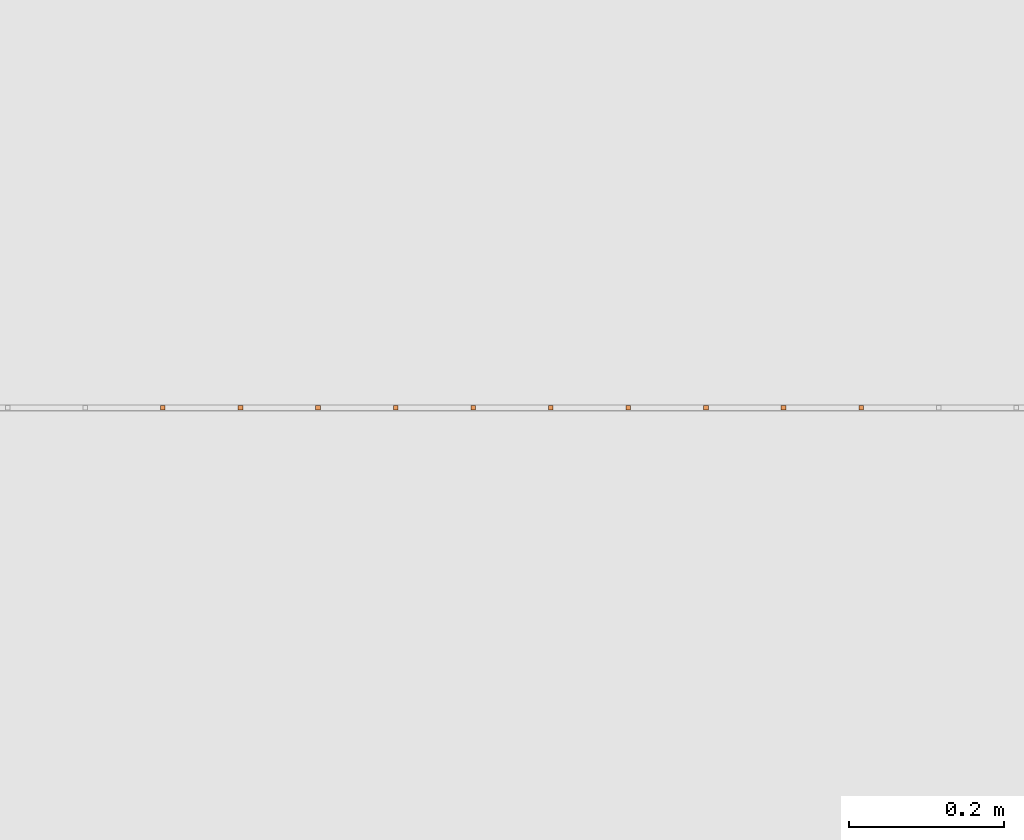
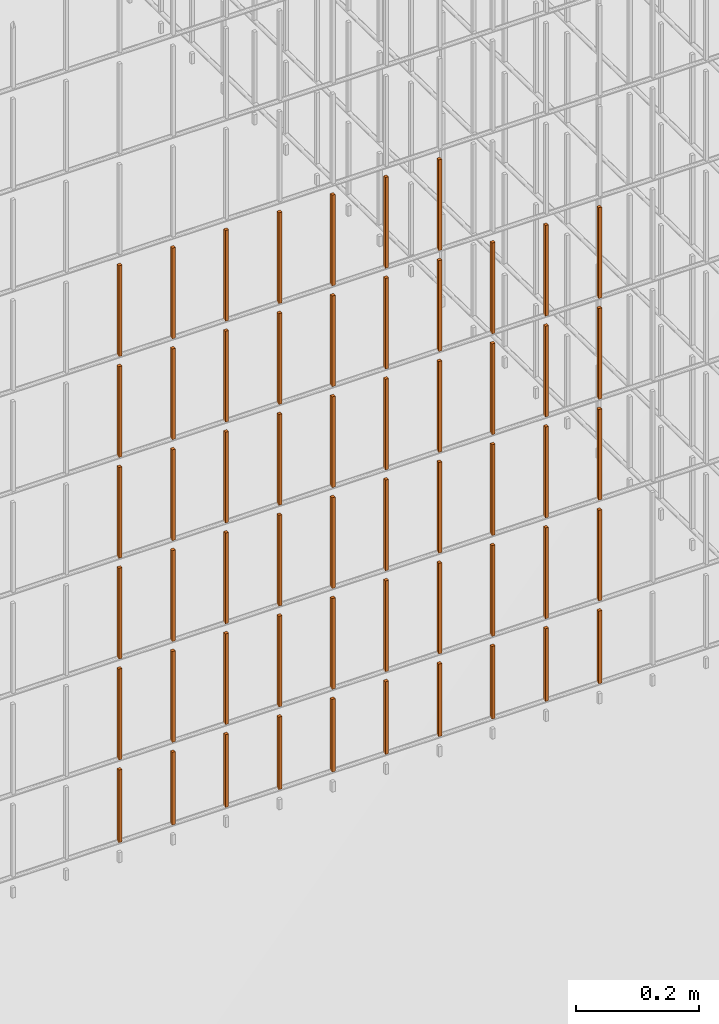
# One storey, part 252 of 1809: 57 proxies, 1 element without a shape of its own.
"""IFC2X3 building model written with IfcOpenShell, lengths in millimetres."""

from ifc_helpers import new_model, entity, si_unit, converted_unit, derived_unit, money_unit, direction, frame, origin_with_axes, place, context, subcontext, project, spatial, faceted_brep, source, transform, mapped, material, type_object, element, aggregate, save


model = new_model("IFC2X3")

# Units and contexts
model_context = context("Model", 3, precision=0.01, world=origin_with_axes(), true_north=direction((0.0, 1.0)))
body_context = subcontext(model_context, "Body", "Model", "MODEL_VIEW")
ifc_project = project(units=[si_unit("LENGTHUNIT", "METRE", prefix="MILLI"), si_unit("AREAUNIT", "SQUARE_METRE"), si_unit("VOLUMEUNIT", "CUBIC_METRE"), converted_unit("PLANEANGLEUNIT", "DEGREE", entity("IfcPlaneAngleMeasure", 0.0174532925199), si_unit("PLANEANGLEUNIT", "RADIAN"), dimensions=[0, 0, 0, 0, 0, 0, 0]), si_unit("SOLIDANGLEUNIT", "STERADIAN"), money_unit("EUR"), converted_unit("TIMEUNIT", "Year", entity("IfcTimeMeasure", 31556926.0), si_unit("TIMEUNIT", "SECOND"), dimensions=[0, 0, 1, 0, 0, 0, 0]), si_unit("MASSUNIT", "GRAM", prefix="KILO"), si_unit("THERMODYNAMICTEMPERATUREUNIT", "DEGREE_CELSIUS"), si_unit("LUMINOUSINTENSITYUNIT", "LUMEN"), si_unit("ENERGYUNIT", "JOULE", prefix="MEGA"), derived_unit("THERMALCONDUCTANCEUNIT", [(si_unit("POWERUNIT", "WATT"), 1), (si_unit("LENGTHUNIT", "METRE"), -1), (si_unit("THERMODYNAMICTEMPERATUREUNIT", "KELVIN"), -1)]), derived_unit("SPECIFICHEATCAPACITYUNIT", [(si_unit("ENERGYUNIT", "JOULE"), 1), (si_unit("MASSUNIT", "GRAM", prefix="KILO"), -1), (si_unit("THERMODYNAMICTEMPERATUREUNIT", "KELVIN"), -1)]), derived_unit("MASSDENSITYUNIT", [(si_unit("MASSUNIT", "GRAM", prefix="KILO"), 1), (si_unit("VOLUMEUNIT", "CUBIC_METRE"), -1)])], contexts=[model_context])

# Site, building, storey
site_placement = place(None, origin_with_axes())
site = spatial("IfcSite", under=ifc_project, at=site_placement, Name="Politse- ja Piirivalveameti ning Päästeameti ühishoone", CompositionType="ELEMENT")
building_placement = place(site_placement, origin_with_axes())
building = spatial("IfcBuilding", under=site, at=building_placement, Name="Politse- ja Piirivalveameti ning Päästeameti ühishoone", CompositionType="ELEMENT")
storey_placement = place(building_placement, origin_with_axes())
storey = spatial("IfcBuildingStorey", under=building, at=storey_placement, Name="Esimene korrus", CompositionType="ELEMENT", Elevation=0.0)

# Proxies
building_element_proxy_type_1 = type_object("IfcBuildingElementProxyType", Name="Railing Type", PredefinedType="NOTDEFINED")
proxy_1_placement = place(storey_placement, frame((-16775.8601056, 25156.7555964, 0.0), z_axis=(0.0, 0.0, 1.0), x_axis=(1.0, 0.0, 0.0)))
proxy_1 = element("IfcBuildingElementProxy", 1, at=proxy_1_placement, inside=storey, type_object=building_element_proxy_type_1, Name="KENNELI PIIRE")
ifc_material = material(Name="Teras - Konstruktsioon")
building_element_proxy_type_2 = type_object("IfcBuildingElementProxyType", Name="IfcBuildingElementProxy", PredefinedType="NOTDEFINED")
shared_shape_1 = source(origin_with_axes(), body_context, "Body", "Brep", [
    faceted_brep([(3.0, 3.0, 0.0), (-3.0, 3.0, 0.0), (-3.0, 3.0, 180.000012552), (3.0, 3.0, 180.000012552), (3.0, -3.0, 0.0), (-3.0, -3.0, 0.0), (-3.0, -3.0, 180.000012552), (3.0, -3.0, 180.000012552)], [[[0, 1, 2, 3]], [[0, 4, 5, 1]], [[1, 5, 6, 2]], [[3, 2, 6, 7]], [[4, 0, 3, 7]], [[5, 4, 7, 6]]]),
])
proxy_2_placement = place(proxy_1_placement, frame((-1082.26655065, -16068.8402798, 403.999987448), z_axis=(0.0, 0.0, 1.0), x_axis=(1.0, 0.0, 0.0)))
proxy_2 = element("IfcBuildingElementProxy", 2, at=proxy_2_placement, type_object=building_element_proxy_type_2, material=ifc_material, Name="BALUSTER - 001", context=body_context, shape_type="MappedRepresentation", body=[
    mapped(shared_shape_1, transform((0.0, 0.0, 0.0), x_axis=(0.0, -1.0, 0.0), y_axis=(1.0, 0.0, 0.0), z_axis=(0.0, 0.0, 1.0))),
])
proxy_3_placement = place(proxy_1_placement, frame((-982.266550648, -16068.8402798, 403.999987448), z_axis=(0.0, 0.0, 1.0), x_axis=(1.0, 0.0, 0.0)))
proxy_3 = element("IfcBuildingElementProxy", 3, at=proxy_3_placement, type_object=building_element_proxy_type_2, material=ifc_material, Name="BALUSTER - 001", context=body_context, shape_type="MappedRepresentation", body=[
    mapped(shared_shape_1, transform((0.0, 0.0, 0.0), x_axis=(0.0, -1.0, 0.0), y_axis=(1.0, 0.0, 0.0), z_axis=(0.0, 0.0, 1.0))),
])
proxy_4_placement = place(proxy_1_placement, frame((-882.266550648, -16068.8402798, 403.999987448), z_axis=(0.0, 0.0, 1.0), x_axis=(1.0, 0.0, 0.0)))
proxy_4 = element("IfcBuildingElementProxy", 4, at=proxy_4_placement, type_object=building_element_proxy_type_2, material=ifc_material, Name="BALUSTER - 001", context=body_context, shape_type="MappedRepresentation", body=[
    mapped(shared_shape_1, transform((0.0, 0.0, 0.0), x_axis=(0.0, -1.0, 0.0), y_axis=(1.0, 0.0, 0.0), z_axis=(0.0, 0.0, 1.0))),
])
proxy_5_placement = place(proxy_1_placement, frame((-782.266550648, -16068.8402798, 403.999987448), z_axis=(0.0, 0.0, 1.0), x_axis=(1.0, 0.0, 0.0)))
proxy_5 = element("IfcBuildingElementProxy", 5, at=proxy_5_placement, type_object=building_element_proxy_type_2, material=ifc_material, Name="BALUSTER - 001", context=body_context, shape_type="MappedRepresentation", body=[
    mapped(shared_shape_1, transform((0.0, 0.0, 0.0), x_axis=(0.0, -1.0, 0.0), y_axis=(1.0, 0.0, 0.0), z_axis=(0.0, 0.0, 1.0))),
])
proxy_6_placement = place(proxy_1_placement, frame((-682.266550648, -16068.8402798, 403.999987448), z_axis=(0.0, 0.0, 1.0), x_axis=(1.0, 0.0, 0.0)))
proxy_6 = element("IfcBuildingElementProxy", 6, at=proxy_6_placement, type_object=building_element_proxy_type_2, material=ifc_material, Name="BALUSTER - 001", context=body_context, shape_type="MappedRepresentation", body=[
    mapped(shared_shape_1, transform((0.0, 0.0, 0.0), x_axis=(0.0, -1.0, 0.0), y_axis=(1.0, 0.0, 0.0), z_axis=(0.0, 0.0, 1.0))),
])
proxy_7_placement = place(proxy_1_placement, frame((-582.266550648, -16068.8402798, 403.999987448), z_axis=(0.0, 0.0, 1.0), x_axis=(1.0, 0.0, 0.0)))
proxy_7 = element("IfcBuildingElementProxy", 7, at=proxy_7_placement, type_object=building_element_proxy_type_2, material=ifc_material, Name="BALUSTER - 001", context=body_context, shape_type="MappedRepresentation", body=[
    mapped(shared_shape_1, transform((0.0, 0.0, 0.0), x_axis=(0.0, -1.0, 0.0), y_axis=(1.0, 0.0, 0.0), z_axis=(0.0, 0.0, 1.0))),
])
proxy_8_placement = place(proxy_1_placement, frame((-482.266550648, -16068.8402798, 403.999987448), z_axis=(0.0, 0.0, 1.0), x_axis=(1.0, 0.0, 0.0)))
proxy_8 = element("IfcBuildingElementProxy", 8, at=proxy_8_placement, type_object=building_element_proxy_type_2, material=ifc_material, Name="BALUSTER - 001", context=body_context, shape_type="MappedRepresentation", body=[
    mapped(shared_shape_1, transform((0.0, 0.0, 0.0), x_axis=(0.0, -1.0, 0.0), y_axis=(1.0, 0.0, 0.0), z_axis=(0.0, 0.0, 1.0))),
])
proxy_9_placement = place(proxy_1_placement, frame((-382.266550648, -16068.8402798, 403.999987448), z_axis=(0.0, 0.0, 1.0), x_axis=(1.0, 0.0, 0.0)))
proxy_9 = element("IfcBuildingElementProxy", 9, at=proxy_9_placement, type_object=building_element_proxy_type_2, material=ifc_material, Name="BALUSTER - 001", context=body_context, shape_type="MappedRepresentation", body=[
    mapped(shared_shape_1, transform((0.0, 0.0, 0.0), x_axis=(0.0, -1.0, 0.0), y_axis=(1.0, 0.0, 0.0), z_axis=(0.0, 0.0, 1.0))),
])
proxy_10_placement = place(proxy_1_placement, frame((-282.266550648, -16068.8402798, 403.999987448), z_axis=(0.0, 0.0, 1.0), x_axis=(1.0, 0.0, 0.0)))
proxy_10 = element("IfcBuildingElementProxy", 10, at=proxy_10_placement, type_object=building_element_proxy_type_2, material=ifc_material, Name="BALUSTER - 001", context=body_context, shape_type="MappedRepresentation", body=[
    mapped(shared_shape_1, transform((0.0, 0.0, 0.0), x_axis=(0.0, -1.0, 0.0), y_axis=(1.0, 0.0, 0.0), z_axis=(0.0, 0.0, 1.0))),
])
proxy_11_placement = place(proxy_1_placement, frame((-182.266550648, -16068.8402798, 403.999987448), z_axis=(0.0, 0.0, 1.0), x_axis=(1.0, 0.0, 0.0)))
proxy_11 = element("IfcBuildingElementProxy", 11, at=proxy_11_placement, type_object=building_element_proxy_type_2, material=ifc_material, Name="BALUSTER - 001", context=body_context, shape_type="MappedRepresentation", body=[
    mapped(shared_shape_1, transform((0.0, 0.0, 0.0), x_axis=(0.0, -1.0, 0.0), y_axis=(1.0, 0.0, 0.0), z_axis=(0.0, 0.0, 1.0))),
])
proxy_12_placement = place(proxy_1_placement, frame((-1082.26655065, -16068.8402798, 803.999987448), z_axis=(0.0, 0.0, 1.0), x_axis=(1.0, 0.0, 0.0)))
proxy_12 = element("IfcBuildingElementProxy", 12, at=proxy_12_placement, type_object=building_element_proxy_type_2, material=ifc_material, Name="BALUSTER - 001", context=body_context, shape_type="MappedRepresentation", body=[
    mapped(shared_shape_1, transform((0.0, 0.0, 0.0), x_axis=(0.0, -1.0, 0.0), y_axis=(1.0, 0.0, 0.0), z_axis=(0.0, 0.0, 1.0))),
])
proxy_13_placement = place(proxy_1_placement, frame((-982.266550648, -16068.8402798, 803.999987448), z_axis=(0.0, 0.0, 1.0), x_axis=(1.0, 0.0, 0.0)))
proxy_13 = element("IfcBuildingElementProxy", 13, at=proxy_13_placement, type_object=building_element_proxy_type_2, material=ifc_material, Name="BALUSTER - 001", context=body_context, shape_type="MappedRepresentation", body=[
    mapped(shared_shape_1, transform((0.0, 0.0, 0.0), x_axis=(0.0, -1.0, 0.0), y_axis=(1.0, 0.0, 0.0), z_axis=(0.0, 0.0, 1.0))),
])
proxy_14_placement = place(proxy_1_placement, frame((-882.266550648, -16068.8402798, 803.999987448), z_axis=(0.0, 0.0, 1.0), x_axis=(1.0, 0.0, 0.0)))
proxy_14 = element("IfcBuildingElementProxy", 14, at=proxy_14_placement, type_object=building_element_proxy_type_2, material=ifc_material, Name="BALUSTER - 001", context=body_context, shape_type="MappedRepresentation", body=[
    mapped(shared_shape_1, transform((0.0, 0.0, 0.0), x_axis=(0.0, -1.0, 0.0), y_axis=(1.0, 0.0, 0.0), z_axis=(0.0, 0.0, 1.0))),
])
proxy_15_placement = place(proxy_1_placement, frame((-782.266550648, -16068.8402798, 803.999987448), z_axis=(0.0, 0.0, 1.0), x_axis=(1.0, 0.0, 0.0)))
proxy_15 = element("IfcBuildingElementProxy", 15, at=proxy_15_placement, type_object=building_element_proxy_type_2, material=ifc_material, Name="BALUSTER - 001", context=body_context, shape_type="MappedRepresentation", body=[
    mapped(shared_shape_1, transform((0.0, 0.0, 0.0), x_axis=(0.0, -1.0, 0.0), y_axis=(1.0, 0.0, 0.0), z_axis=(0.0, 0.0, 1.0))),
])
proxy_16_placement = place(proxy_1_placement, frame((-682.266550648, -16068.8402798, 803.999987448), z_axis=(0.0, 0.0, 1.0), x_axis=(1.0, 0.0, 0.0)))
proxy_16 = element("IfcBuildingElementProxy", 16, at=proxy_16_placement, type_object=building_element_proxy_type_2, material=ifc_material, Name="BALUSTER - 001", context=body_context, shape_type="MappedRepresentation", body=[
    mapped(shared_shape_1, transform((0.0, 0.0, 0.0), x_axis=(0.0, -1.0, 0.0), y_axis=(1.0, 0.0, 0.0), z_axis=(0.0, 0.0, 1.0))),
])
proxy_17_placement = place(proxy_1_placement, frame((-582.266550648, -16068.8402798, 803.999987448), z_axis=(0.0, 0.0, 1.0), x_axis=(1.0, 0.0, 0.0)))
proxy_17 = element("IfcBuildingElementProxy", 17, at=proxy_17_placement, type_object=building_element_proxy_type_2, material=ifc_material, Name="BALUSTER - 001", context=body_context, shape_type="MappedRepresentation", body=[
    mapped(shared_shape_1, transform((0.0, 0.0, 0.0), x_axis=(0.0, -1.0, 0.0), y_axis=(1.0, 0.0, 0.0), z_axis=(0.0, 0.0, 1.0))),
])
proxy_18_placement = place(proxy_1_placement, frame((-482.266550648, -16068.8402798, 803.999987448), z_axis=(0.0, 0.0, 1.0), x_axis=(1.0, 0.0, 0.0)))
proxy_18 = element("IfcBuildingElementProxy", 18, at=proxy_18_placement, type_object=building_element_proxy_type_2, material=ifc_material, Name="BALUSTER - 001", context=body_context, shape_type="MappedRepresentation", body=[
    mapped(shared_shape_1, transform((0.0, 0.0, 0.0), x_axis=(0.0, -1.0, 0.0), y_axis=(1.0, 0.0, 0.0), z_axis=(0.0, 0.0, 1.0))),
])
proxy_19_placement = place(proxy_1_placement, frame((-382.266550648, -16068.8402798, 803.999987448), z_axis=(0.0, 0.0, 1.0), x_axis=(1.0, 0.0, 0.0)))
proxy_19 = element("IfcBuildingElementProxy", 19, at=proxy_19_placement, type_object=building_element_proxy_type_2, material=ifc_material, Name="BALUSTER - 001", context=body_context, shape_type="MappedRepresentation", body=[
    mapped(shared_shape_1, transform((0.0, 0.0, 0.0), x_axis=(0.0, -1.0, 0.0), y_axis=(1.0, 0.0, 0.0), z_axis=(0.0, 0.0, 1.0))),
])
proxy_20_placement = place(proxy_1_placement, frame((-282.266550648, -16068.8402798, 803.999987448), z_axis=(0.0, 0.0, 1.0), x_axis=(1.0, 0.0, 0.0)))
proxy_20 = element("IfcBuildingElementProxy", 20, at=proxy_20_placement, type_object=building_element_proxy_type_2, material=ifc_material, Name="BALUSTER - 001", context=body_context, shape_type="MappedRepresentation", body=[
    mapped(shared_shape_1, transform((0.0, 0.0, 0.0), x_axis=(0.0, -1.0, 0.0), y_axis=(1.0, 0.0, 0.0), z_axis=(0.0, 0.0, 1.0))),
])
proxy_21_placement = place(proxy_1_placement, frame((-182.266550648, -16068.8402798, 803.999987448), z_axis=(0.0, 0.0, 1.0), x_axis=(1.0, 0.0, 0.0)))
proxy_21 = element("IfcBuildingElementProxy", 21, at=proxy_21_placement, type_object=building_element_proxy_type_2, material=ifc_material, Name="BALUSTER - 001", context=body_context, shape_type="MappedRepresentation", body=[
    mapped(shared_shape_1, transform((0.0, 0.0, 0.0), x_axis=(0.0, -1.0, 0.0), y_axis=(1.0, 0.0, 0.0), z_axis=(0.0, 0.0, 1.0))),
])
proxy_22_placement = place(proxy_1_placement, frame((-1082.26655065, -16068.8402798, 1003.99998745), z_axis=(0.0, 0.0, 1.0), x_axis=(1.0, 0.0, 0.0)))
proxy_22 = element("IfcBuildingElementProxy", 22, at=proxy_22_placement, type_object=building_element_proxy_type_2, material=ifc_material, Name="BALUSTER - 001", context=body_context, shape_type="MappedRepresentation", body=[
    mapped(shared_shape_1, transform((0.0, 0.0, 0.0), x_axis=(0.0, -1.0, 0.0), y_axis=(1.0, 0.0, 0.0), z_axis=(0.0, 0.0, 1.0))),
])
proxy_23_placement = place(proxy_1_placement, frame((-982.266550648, -16068.8402798, 1003.99998745), z_axis=(0.0, 0.0, 1.0), x_axis=(1.0, 0.0, 0.0)))
proxy_23 = element("IfcBuildingElementProxy", 23, at=proxy_23_placement, type_object=building_element_proxy_type_2, material=ifc_material, Name="BALUSTER - 001", context=body_context, shape_type="MappedRepresentation", body=[
    mapped(shared_shape_1, transform((0.0, 0.0, 0.0), x_axis=(0.0, -1.0, 0.0), y_axis=(1.0, 0.0, 0.0), z_axis=(0.0, 0.0, 1.0))),
])
proxy_24_placement = place(proxy_1_placement, frame((-882.266550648, -16068.8402798, 1003.99998745), z_axis=(0.0, 0.0, 1.0), x_axis=(1.0, 0.0, 0.0)))
proxy_24 = element("IfcBuildingElementProxy", 24, at=proxy_24_placement, type_object=building_element_proxy_type_2, material=ifc_material, Name="BALUSTER - 001", context=body_context, shape_type="MappedRepresentation", body=[
    mapped(shared_shape_1, transform((0.0, 0.0, 0.0), x_axis=(0.0, -1.0, 0.0), y_axis=(1.0, 0.0, 0.0), z_axis=(0.0, 0.0, 1.0))),
])
proxy_25_placement = place(proxy_1_placement, frame((-782.266550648, -16068.8402798, 1003.99998745), z_axis=(0.0, 0.0, 1.0), x_axis=(1.0, 0.0, 0.0)))
proxy_25 = element("IfcBuildingElementProxy", 25, at=proxy_25_placement, type_object=building_element_proxy_type_2, material=ifc_material, Name="BALUSTER - 001", context=body_context, shape_type="MappedRepresentation", body=[
    mapped(shared_shape_1, transform((0.0, 0.0, 0.0), x_axis=(0.0, -1.0, 0.0), y_axis=(1.0, 0.0, 0.0), z_axis=(0.0, 0.0, 1.0))),
])
proxy_26_placement = place(proxy_1_placement, frame((-682.266550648, -16068.8402798, 1003.99998745), z_axis=(0.0, 0.0, 1.0), x_axis=(1.0, 0.0, 0.0)))
proxy_26 = element("IfcBuildingElementProxy", 26, at=proxy_26_placement, type_object=building_element_proxy_type_2, material=ifc_material, Name="BALUSTER - 001", context=body_context, shape_type="MappedRepresentation", body=[
    mapped(shared_shape_1, transform((0.0, 0.0, 0.0), x_axis=(0.0, -1.0, 0.0), y_axis=(1.0, 0.0, 0.0), z_axis=(0.0, 0.0, 1.0))),
])
proxy_27_placement = place(proxy_1_placement, frame((-582.266550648, -16068.8402798, 1003.99998745), z_axis=(0.0, 0.0, 1.0), x_axis=(1.0, 0.0, 0.0)))
proxy_27 = element("IfcBuildingElementProxy", 27, at=proxy_27_placement, type_object=building_element_proxy_type_2, material=ifc_material, Name="BALUSTER - 001", context=body_context, shape_type="MappedRepresentation", body=[
    mapped(shared_shape_1, transform((0.0, 0.0, 0.0), x_axis=(0.0, -1.0, 0.0), y_axis=(1.0, 0.0, 0.0), z_axis=(0.0, 0.0, 1.0))),
])
proxy_28_placement = place(proxy_1_placement, frame((-482.266550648, -16068.8402798, 1003.99998745), z_axis=(0.0, 0.0, 1.0), x_axis=(1.0, 0.0, 0.0)))
proxy_28 = element("IfcBuildingElementProxy", 28, at=proxy_28_placement, type_object=building_element_proxy_type_2, material=ifc_material, Name="BALUSTER - 001", context=body_context, shape_type="MappedRepresentation", body=[
    mapped(shared_shape_1, transform((0.0, 0.0, 0.0), x_axis=(0.0, -1.0, 0.0), y_axis=(1.0, 0.0, 0.0), z_axis=(0.0, 0.0, 1.0))),
])
shared_shape_2 = source(origin_with_axes(), body_context, "Body", "Brep", [
    faceted_brep([(3.0, 3.0, 0.0), (-3.0, 3.0, 0.0), (-3.0, 3.0, 144.000012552), (3.0, 3.0, 144.000012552), (3.0, -3.0, 0.0), (-3.0, -3.0, 0.0), (-3.0, -3.0, 144.000012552), (3.0, -3.0, 144.000012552)], [[[0, 1, 2, 3]], [[0, 4, 5, 1]], [[1, 5, 6, 2]], [[3, 2, 6, 7]], [[4, 0, 3, 7]], [[5, 4, 7, 6]]]),
])
proxy_29_placement = place(proxy_1_placement, frame((-1082.26655065, -16068.8402798, 39.9999874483), z_axis=(0.0, 0.0, 1.0), x_axis=(1.0, 0.0, 0.0)))
proxy_29 = element("IfcBuildingElementProxy", 29, at=proxy_29_placement, type_object=building_element_proxy_type_2, material=ifc_material, Name="BALUSTER - 001", context=body_context, shape_type="MappedRepresentation", body=[
    mapped(shared_shape_2, transform((0.0, 0.0, 0.0), x_axis=(0.0, -1.0, 0.0), y_axis=(1.0, 0.0, 0.0), z_axis=(0.0, 0.0, 1.0))),
])
proxy_30_placement = place(proxy_1_placement, frame((-982.266550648, -16068.8402798, 39.9999874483), z_axis=(0.0, 0.0, 1.0), x_axis=(1.0, 0.0, 0.0)))
proxy_30 = element("IfcBuildingElementProxy", 30, at=proxy_30_placement, type_object=building_element_proxy_type_2, material=ifc_material, Name="BALUSTER - 001", context=body_context, shape_type="MappedRepresentation", body=[
    mapped(shared_shape_2, transform((0.0, 0.0, 0.0), x_axis=(0.0, -1.0, 0.0), y_axis=(1.0, 0.0, 0.0), z_axis=(0.0, 0.0, 1.0))),
])
proxy_31_placement = place(proxy_1_placement, frame((-882.266550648, -16068.8402798, 39.9999874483), z_axis=(0.0, 0.0, 1.0), x_axis=(1.0, 0.0, 0.0)))
proxy_31 = element("IfcBuildingElementProxy", 31, at=proxy_31_placement, type_object=building_element_proxy_type_2, material=ifc_material, Name="BALUSTER - 001", context=body_context, shape_type="MappedRepresentation", body=[
    mapped(shared_shape_2, transform((0.0, 0.0, 0.0), x_axis=(0.0, -1.0, 0.0), y_axis=(1.0, 0.0, 0.0), z_axis=(0.0, 0.0, 1.0))),
])
proxy_32_placement = place(proxy_1_placement, frame((-782.266550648, -16068.8402798, 39.9999874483), z_axis=(0.0, 0.0, 1.0), x_axis=(1.0, 0.0, 0.0)))
proxy_32 = element("IfcBuildingElementProxy", 32, at=proxy_32_placement, type_object=building_element_proxy_type_2, material=ifc_material, Name="BALUSTER - 001", context=body_context, shape_type="MappedRepresentation", body=[
    mapped(shared_shape_2, transform((0.0, 0.0, 0.0), x_axis=(0.0, -1.0, 0.0), y_axis=(1.0, 0.0, 0.0), z_axis=(0.0, 0.0, 1.0))),
])
proxy_33_placement = place(proxy_1_placement, frame((-682.266550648, -16068.8402798, 39.9999874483), z_axis=(0.0, 0.0, 1.0), x_axis=(1.0, 0.0, 0.0)))
proxy_33 = element("IfcBuildingElementProxy", 33, at=proxy_33_placement, type_object=building_element_proxy_type_2, material=ifc_material, Name="BALUSTER - 001", context=body_context, shape_type="MappedRepresentation", body=[
    mapped(shared_shape_2, transform((0.0, 0.0, 0.0), x_axis=(0.0, -1.0, 0.0), y_axis=(1.0, 0.0, 0.0), z_axis=(0.0, 0.0, 1.0))),
])
proxy_34_placement = place(proxy_1_placement, frame((-582.266550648, -16068.8402798, 39.9999874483), z_axis=(0.0, 0.0, 1.0), x_axis=(1.0, 0.0, 0.0)))
proxy_34 = element("IfcBuildingElementProxy", 34, at=proxy_34_placement, type_object=building_element_proxy_type_2, material=ifc_material, Name="BALUSTER - 001", context=body_context, shape_type="MappedRepresentation", body=[
    mapped(shared_shape_2, transform((0.0, 0.0, 0.0), x_axis=(0.0, -1.0, 0.0), y_axis=(1.0, 0.0, 0.0), z_axis=(0.0, 0.0, 1.0))),
])
proxy_35_placement = place(proxy_1_placement, frame((-482.266550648, -16068.8402798, 39.9999874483), z_axis=(0.0, 0.0, 1.0), x_axis=(1.0, 0.0, 0.0)))
proxy_35 = element("IfcBuildingElementProxy", 35, at=proxy_35_placement, type_object=building_element_proxy_type_2, material=ifc_material, Name="BALUSTER - 001", context=body_context, shape_type="MappedRepresentation", body=[
    mapped(shared_shape_2, transform((0.0, 0.0, 0.0), x_axis=(0.0, -1.0, 0.0), y_axis=(1.0, 0.0, 0.0), z_axis=(0.0, 0.0, 1.0))),
])
proxy_36_placement = place(proxy_1_placement, frame((-382.266550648, -16068.8402798, 39.9999874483), z_axis=(0.0, 0.0, 1.0), x_axis=(1.0, 0.0, 0.0)))
proxy_36 = element("IfcBuildingElementProxy", 36, at=proxy_36_placement, type_object=building_element_proxy_type_2, material=ifc_material, Name="BALUSTER - 001", context=body_context, shape_type="MappedRepresentation", body=[
    mapped(shared_shape_2, transform((0.0, 0.0, 0.0), x_axis=(0.0, -1.0, 0.0), y_axis=(1.0, 0.0, 0.0), z_axis=(0.0, 0.0, 1.0))),
])
proxy_37_placement = place(proxy_1_placement, frame((-282.266550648, -16068.8402798, 39.9999874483), z_axis=(0.0, 0.0, 1.0), x_axis=(1.0, 0.0, 0.0)))
proxy_37 = element("IfcBuildingElementProxy", 37, at=proxy_37_placement, type_object=building_element_proxy_type_2, material=ifc_material, Name="BALUSTER - 001", context=body_context, shape_type="MappedRepresentation", body=[
    mapped(shared_shape_2, transform((0.0, 0.0, 0.0), x_axis=(0.0, -1.0, 0.0), y_axis=(1.0, 0.0, 0.0), z_axis=(0.0, 0.0, 1.0))),
])
proxy_38_placement = place(proxy_1_placement, frame((-182.266550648, -16068.8402798, 39.9999874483), z_axis=(0.0, 0.0, 1.0), x_axis=(1.0, 0.0, 0.0)))
proxy_38 = element("IfcBuildingElementProxy", 38, at=proxy_38_placement, type_object=building_element_proxy_type_2, material=ifc_material, Name="BALUSTER - 001", context=body_context, shape_type="MappedRepresentation", body=[
    mapped(shared_shape_2, transform((0.0, 0.0, 0.0), x_axis=(0.0, -1.0, 0.0), y_axis=(1.0, 0.0, 0.0), z_axis=(0.0, 0.0, 1.0))),
])
shared_shape_3 = source(origin_with_axes(), body_context, "Body", "Brep", [
    faceted_brep([(3.0, 3.0, 0.0), (-3.0, 3.0, 0.0), (-3.0, 3.0, 180.000012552), (3.0, 3.0, 180.000012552), (3.0, -3.0, 0.0), (-3.0, -3.0, 0.0), (-3.0, -3.0, 180.000012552), (3.0, -3.0, 180.000012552)], [[[0, 1, 2, 3]], [[0, 4, 5, 1]], [[1, 5, 6, 2]], [[3, 2, 6, 7]], [[4, 0, 3, 7]], [[5, 4, 7, 6]]]),
])
proxy_39_placement = place(proxy_1_placement, frame((-1082.26655065, -16068.8402798, 203.999987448), z_axis=(0.0, 0.0, 1.0), x_axis=(1.0, 0.0, 0.0)))
proxy_39 = element("IfcBuildingElementProxy", 39, at=proxy_39_placement, type_object=building_element_proxy_type_2, material=ifc_material, Name="BALUSTER - 001", context=body_context, shape_type="MappedRepresentation", body=[
    mapped(shared_shape_3, transform((0.0, 0.0, 0.0), x_axis=(0.0, -1.0, 0.0), y_axis=(1.0, 0.0, 0.0), z_axis=(0.0, 0.0, 1.0))),
])
proxy_40_placement = place(proxy_1_placement, frame((-982.266550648, -16068.8402798, 203.999987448), z_axis=(0.0, 0.0, 1.0), x_axis=(1.0, 0.0, 0.0)))
proxy_40 = element("IfcBuildingElementProxy", 40, at=proxy_40_placement, type_object=building_element_proxy_type_2, material=ifc_material, Name="BALUSTER - 001", context=body_context, shape_type="MappedRepresentation", body=[
    mapped(shared_shape_3, transform((0.0, 0.0, 0.0), x_axis=(0.0, -1.0, 0.0), y_axis=(1.0, 0.0, 0.0), z_axis=(0.0, 0.0, 1.0))),
])
proxy_41_placement = place(proxy_1_placement, frame((-882.266550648, -16068.8402798, 203.999987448), z_axis=(0.0, 0.0, 1.0), x_axis=(1.0, 0.0, 0.0)))
proxy_41 = element("IfcBuildingElementProxy", 41, at=proxy_41_placement, type_object=building_element_proxy_type_2, material=ifc_material, Name="BALUSTER - 001", context=body_context, shape_type="MappedRepresentation", body=[
    mapped(shared_shape_3, transform((0.0, 0.0, 0.0), x_axis=(0.0, -1.0, 0.0), y_axis=(1.0, 0.0, 0.0), z_axis=(0.0, 0.0, 1.0))),
])
proxy_42_placement = place(proxy_1_placement, frame((-782.266550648, -16068.8402798, 203.999987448), z_axis=(0.0, 0.0, 1.0), x_axis=(1.0, 0.0, 0.0)))
proxy_42 = element("IfcBuildingElementProxy", 42, at=proxy_42_placement, type_object=building_element_proxy_type_2, material=ifc_material, Name="BALUSTER - 001", context=body_context, shape_type="MappedRepresentation", body=[
    mapped(shared_shape_3, transform((0.0, 0.0, 0.0), x_axis=(0.0, -1.0, 0.0), y_axis=(1.0, 0.0, 0.0), z_axis=(0.0, 0.0, 1.0))),
])
proxy_43_placement = place(proxy_1_placement, frame((-682.266550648, -16068.8402798, 203.999987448), z_axis=(0.0, 0.0, 1.0), x_axis=(1.0, 0.0, 0.0)))
proxy_43 = element("IfcBuildingElementProxy", 43, at=proxy_43_placement, type_object=building_element_proxy_type_2, material=ifc_material, Name="BALUSTER - 001", context=body_context, shape_type="MappedRepresentation", body=[
    mapped(shared_shape_3, transform((0.0, 0.0, 0.0), x_axis=(0.0, -1.0, 0.0), y_axis=(1.0, 0.0, 0.0), z_axis=(0.0, 0.0, 1.0))),
])
proxy_44_placement = place(proxy_1_placement, frame((-582.266550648, -16068.8402798, 203.999987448), z_axis=(0.0, 0.0, 1.0), x_axis=(1.0, 0.0, 0.0)))
proxy_44 = element("IfcBuildingElementProxy", 44, at=proxy_44_placement, type_object=building_element_proxy_type_2, material=ifc_material, Name="BALUSTER - 001", context=body_context, shape_type="MappedRepresentation", body=[
    mapped(shared_shape_3, transform((0.0, 0.0, 0.0), x_axis=(0.0, -1.0, 0.0), y_axis=(1.0, 0.0, 0.0), z_axis=(0.0, 0.0, 1.0))),
])
proxy_45_placement = place(proxy_1_placement, frame((-482.266550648, -16068.8402798, 203.999987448), z_axis=(0.0, 0.0, 1.0), x_axis=(1.0, 0.0, 0.0)))
proxy_45 = element("IfcBuildingElementProxy", 45, at=proxy_45_placement, type_object=building_element_proxy_type_2, material=ifc_material, Name="BALUSTER - 001", context=body_context, shape_type="MappedRepresentation", body=[
    mapped(shared_shape_3, transform((0.0, 0.0, 0.0), x_axis=(0.0, -1.0, 0.0), y_axis=(1.0, 0.0, 0.0), z_axis=(0.0, 0.0, 1.0))),
])
proxy_46_placement = place(proxy_1_placement, frame((-382.266550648, -16068.8402798, 203.999987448), z_axis=(0.0, 0.0, 1.0), x_axis=(1.0, 0.0, 0.0)))
proxy_46 = element("IfcBuildingElementProxy", 46, at=proxy_46_placement, type_object=building_element_proxy_type_2, material=ifc_material, Name="BALUSTER - 001", context=body_context, shape_type="MappedRepresentation", body=[
    mapped(shared_shape_3, transform((0.0, 0.0, 0.0), x_axis=(0.0, -1.0, 0.0), y_axis=(1.0, 0.0, 0.0), z_axis=(0.0, 0.0, 1.0))),
])
proxy_47_placement = place(proxy_1_placement, frame((-282.266550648, -16068.8402798, 203.999987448), z_axis=(0.0, 0.0, 1.0), x_axis=(1.0, 0.0, 0.0)))
proxy_47 = element("IfcBuildingElementProxy", 47, at=proxy_47_placement, type_object=building_element_proxy_type_2, material=ifc_material, Name="BALUSTER - 001", context=body_context, shape_type="MappedRepresentation", body=[
    mapped(shared_shape_3, transform((0.0, 0.0, 0.0), x_axis=(0.0, -1.0, 0.0), y_axis=(1.0, 0.0, 0.0), z_axis=(0.0, 0.0, 1.0))),
])
proxy_48_placement = place(proxy_1_placement, frame((-182.266550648, -16068.8402798, 203.999987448), z_axis=(0.0, 0.0, 1.0), x_axis=(1.0, 0.0, 0.0)))
proxy_48 = element("IfcBuildingElementProxy", 48, at=proxy_48_placement, type_object=building_element_proxy_type_2, material=ifc_material, Name="BALUSTER - 001", context=body_context, shape_type="MappedRepresentation", body=[
    mapped(shared_shape_3, transform((0.0, 0.0, 0.0), x_axis=(0.0, -1.0, 0.0), y_axis=(1.0, 0.0, 0.0), z_axis=(0.0, 0.0, 1.0))),
])
shared_shape_4 = source(origin_with_axes(), body_context, "Body", "Brep", [
    faceted_brep([(3.0, 3.0, 0.0), (-3.0, 3.0, 0.0), (-3.0, 3.0, 180.000012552), (3.0, 3.0, 180.000012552), (3.0, -3.0, 0.0), (-3.0, -3.0, 0.0), (-3.0, -3.0, 180.000012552), (3.0, -3.0, 180.000012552)], [[[0, 1, 2, 3]], [[0, 4, 5, 1]], [[1, 5, 6, 2]], [[3, 2, 6, 7]], [[4, 0, 3, 7]], [[5, 4, 7, 6]]]),
])
proxy_49_placement = place(proxy_1_placement, frame((-1082.26655065, -16068.8402798, 603.999987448), z_axis=(0.0, 0.0, 1.0), x_axis=(1.0, 0.0, 0.0)))
proxy_49 = element("IfcBuildingElementProxy", 49, at=proxy_49_placement, type_object=building_element_proxy_type_2, material=ifc_material, Name="BALUSTER - 001", context=body_context, shape_type="MappedRepresentation", body=[
    mapped(shared_shape_4, transform((0.0, 0.0, 0.0), x_axis=(0.0, -1.0, 0.0), y_axis=(1.0, 0.0, 0.0), z_axis=(0.0, 0.0, 1.0))),
])
proxy_50_placement = place(proxy_1_placement, frame((-882.266550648, -16068.8402798, 603.999987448), z_axis=(0.0, 0.0, 1.0), x_axis=(1.0, 0.0, 0.0)))
proxy_50 = element("IfcBuildingElementProxy", 50, at=proxy_50_placement, type_object=building_element_proxy_type_2, material=ifc_material, Name="BALUSTER - 001", context=body_context, shape_type="MappedRepresentation", body=[
    mapped(shared_shape_4, transform((0.0, 0.0, 0.0), x_axis=(0.0, -1.0, 0.0), y_axis=(1.0, 0.0, 0.0), z_axis=(0.0, 0.0, 1.0))),
])
proxy_51_placement = place(proxy_1_placement, frame((-782.266550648, -16068.8402798, 603.999987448), z_axis=(0.0, 0.0, 1.0), x_axis=(1.0, 0.0, 0.0)))
proxy_51 = element("IfcBuildingElementProxy", 51, at=proxy_51_placement, type_object=building_element_proxy_type_2, material=ifc_material, Name="BALUSTER - 001", context=body_context, shape_type="MappedRepresentation", body=[
    mapped(shared_shape_4, transform((0.0, 0.0, 0.0), x_axis=(0.0, -1.0, 0.0), y_axis=(1.0, 0.0, 0.0), z_axis=(0.0, 0.0, 1.0))),
])
proxy_52_placement = place(proxy_1_placement, frame((-682.266550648, -16068.8402798, 603.999987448), z_axis=(0.0, 0.0, 1.0), x_axis=(1.0, 0.0, 0.0)))
proxy_52 = element("IfcBuildingElementProxy", 52, at=proxy_52_placement, type_object=building_element_proxy_type_2, material=ifc_material, Name="BALUSTER - 001", context=body_context, shape_type="MappedRepresentation", body=[
    mapped(shared_shape_4, transform((0.0, 0.0, 0.0), x_axis=(0.0, -1.0, 0.0), y_axis=(1.0, 0.0, 0.0), z_axis=(0.0, 0.0, 1.0))),
])
proxy_53_placement = place(proxy_1_placement, frame((-582.266550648, -16068.8402798, 603.999987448), z_axis=(0.0, 0.0, 1.0), x_axis=(1.0, 0.0, 0.0)))
proxy_53 = element("IfcBuildingElementProxy", 53, at=proxy_53_placement, type_object=building_element_proxy_type_2, material=ifc_material, Name="BALUSTER - 001", context=body_context, shape_type="MappedRepresentation", body=[
    mapped(shared_shape_4, transform((0.0, 0.0, 0.0), x_axis=(0.0, -1.0, 0.0), y_axis=(1.0, 0.0, 0.0), z_axis=(0.0, 0.0, 1.0))),
])
proxy_54_placement = place(proxy_1_placement, frame((-382.266550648, -16068.8402798, 603.999987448), z_axis=(0.0, 0.0, 1.0), x_axis=(1.0, 0.0, 0.0)))
proxy_54 = element("IfcBuildingElementProxy", 54, at=proxy_54_placement, type_object=building_element_proxy_type_2, material=ifc_material, Name="BALUSTER - 001", context=body_context, shape_type="MappedRepresentation", body=[
    mapped(shared_shape_4, transform((0.0, 0.0, 0.0), x_axis=(0.0, -1.0, 0.0), y_axis=(1.0, 0.0, 0.0), z_axis=(0.0, 0.0, 1.0))),
])
proxy_55_placement = place(proxy_1_placement, frame((-282.266550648, -16068.8402798, 603.999987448), z_axis=(0.0, 0.0, 1.0), x_axis=(1.0, 0.0, 0.0)))
proxy_55 = element("IfcBuildingElementProxy", 55, at=proxy_55_placement, type_object=building_element_proxy_type_2, material=ifc_material, Name="BALUSTER - 001", context=body_context, shape_type="MappedRepresentation", body=[
    mapped(shared_shape_4, transform((0.0, 0.0, 0.0), x_axis=(0.0, -1.0, 0.0), y_axis=(1.0, 0.0, 0.0), z_axis=(0.0, 0.0, 1.0))),
])
shared_shape_5 = source(origin_with_axes(), body_context, "Body", "Brep", [
    faceted_brep([(3.0, 3.0, 0.0), (-3.0, 3.0, 0.0), (-3.0, 3.0, 180.000012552), (3.0, 3.0, 180.000012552), (3.0, -3.0, 0.0), (-3.0, -3.0, 0.0), (-3.0, -3.0, 180.000012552), (3.0, -3.0, 180.000012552)], [[[0, 1, 2, 3]], [[0, 4, 5, 1]], [[1, 5, 6, 2]], [[3, 2, 6, 7]], [[4, 0, 3, 7]], [[5, 4, 7, 6]]]),
])
proxy_56_placement = place(proxy_1_placement, frame((-982.266550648, -16068.8402798, 603.999987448), z_axis=(0.0, 0.0, 1.0), x_axis=(1.0, 0.0, 0.0)))
proxy_56 = element("IfcBuildingElementProxy", 56, at=proxy_56_placement, type_object=building_element_proxy_type_2, material=ifc_material, Name="BALUSTER - 001", context=body_context, shape_type="MappedRepresentation", body=[
    mapped(shared_shape_5, transform((0.0, 0.0, 0.0), x_axis=(0.0, -1.0, 0.0), y_axis=(1.0, 0.0, 0.0), z_axis=(0.0, 0.0, 1.0))),
])
proxy_57_placement = place(proxy_1_placement, frame((-482.266550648, -16068.8402798, 603.999987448), z_axis=(0.0, 0.0, 1.0), x_axis=(1.0, 0.0, 0.0)))
proxy_57 = element("IfcBuildingElementProxy", 57, at=proxy_57_placement, type_object=building_element_proxy_type_2, material=ifc_material, Name="BALUSTER - 001", context=body_context, shape_type="MappedRepresentation", body=[
    mapped(shared_shape_5, transform((0.0, 0.0, 0.0), x_axis=(0.0, -1.0, 0.0), y_axis=(1.0, 0.0, 0.0), z_axis=(0.0, 0.0, 1.0))),
])
shared_shape_6 = source(origin_with_axes(), body_context, "Body", "Brep", [
    faceted_brep([(3.0, 3.0, 0.0), (-3.0, 3.0, 0.0), (-3.0, 2.99999999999, 180.000012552), (3.0, 2.99999999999, 180.000012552), (3.0, -3.0, 0.0), (-3.0, -3.0, 0.0), (-3.0, -3.00000000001, 180.000012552), (3.0, -3.00000000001, 180.000012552)], [[[0, 1, 2, 3]], [[0, 4, 5, 1]], [[1, 5, 6, 2]], [[3, 2, 6, 7]], [[4, 0, 3, 7]], [[5, 4, 7, 6]]]),
])
proxy_58_placement = place(proxy_1_placement, frame((-182.266550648, -16068.8402798, 603.999987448), z_axis=(0.0, 0.0, 1.0), x_axis=(1.0, 0.0, 0.0)))
proxy_58 = element("IfcBuildingElementProxy", 58, at=proxy_58_placement, type_object=building_element_proxy_type_2, material=ifc_material, Name="BALUSTER - 001", context=body_context, shape_type="MappedRepresentation", body=[
    mapped(shared_shape_6, transform((0.0, 0.0, 0.0), x_axis=(0.0, -1.0, 0.0), y_axis=(1.0, 0.0, 0.0), z_axis=(0.0, 0.0, 1.0))),
])
aggregate(proxy_1, [proxy_29, proxy_30, proxy_31, proxy_32, proxy_33, proxy_34, proxy_35, proxy_36, proxy_37, proxy_38, proxy_39, proxy_40, proxy_41, proxy_42, proxy_43, proxy_44, proxy_45, proxy_46, proxy_47, proxy_48, proxy_2, proxy_3, proxy_4, proxy_5, proxy_6, proxy_7, proxy_8, proxy_9, proxy_10, proxy_11, proxy_49, proxy_56, proxy_50, proxy_51, proxy_52, proxy_53, proxy_57, proxy_54, proxy_55, proxy_58, proxy_12, proxy_13, proxy_14, proxy_15, proxy_16, proxy_17, proxy_18, proxy_19, proxy_20, proxy_21, proxy_22, proxy_23, proxy_24, proxy_25, proxy_26, proxy_27, proxy_28])

save(model, "model.ifc")
